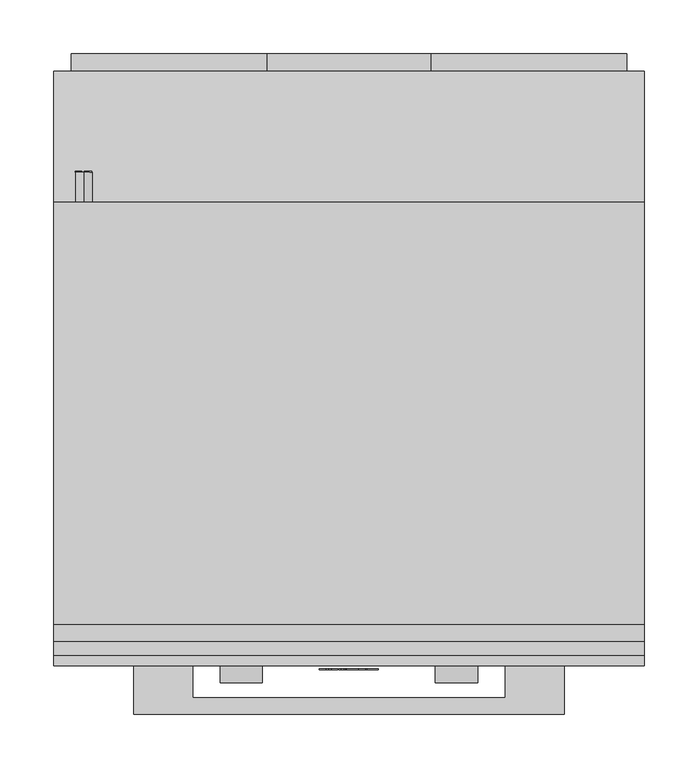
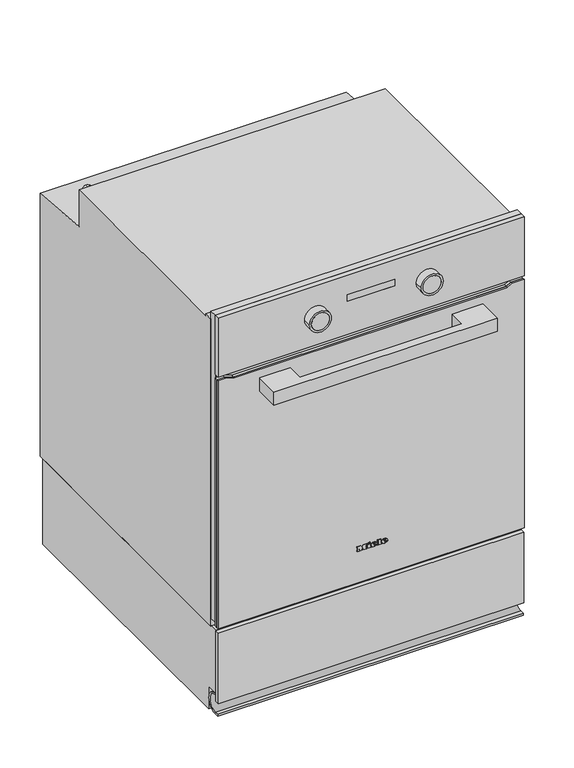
"""IFC4 building model written with IfcOpenShell, lengths in millimetres: proxy geometry, 12146100_CH_H2861-55BP_BRWS : 22286119_CH_12146100_H2861-55BP_BRWS."""

import ifcopenshell
import ifcopenshell.guid

model = None  # the IFC model being written
_history = None  # IfcOwnerHistory: only IFC2X3 demands one
_inside = {}  # id of a spatial element -> (the spatial element, [elements in it])
_under = {}  # id of a project, library or spatial element -> (it, [spatial elements below it])
_declared = {}  # id of a project -> (the project, [libraries it declares])
_typed = {}  # id of a type object -> (the type object, [elements of that type])
_made_of = {}  # id of a material, layer set ... -> (it, [elements and type objects made of it])


def new_model(schema):
    """Start an empty IFC model of exactly this schema.

    Asked for "IFC4X3", IfcOpenShell would pick the latest addendum, in which some entities
    have other attributes; the version numbers below select the first issue.
    IFC2X3 requires an IfcOwnerHistory on every rooted entity: one is made here for all.
    """
    global model, _history
    if schema == "IFC4X3":
        model = ifcopenshell.file(schema_version=(4, 3, 0, 0))
    else:
        model = ifcopenshell.file(schema=schema)
    _inside.clear()
    _under.clear()
    _declared.clear()
    _typed.clear()
    _made_of.clear()
    _history = None
    if model.schema == "IFC2X3":
        org = make("IfcOrganization", Name="unknown")
        user = make(
            "IfcPersonAndOrganization",
            ThePerson=make("IfcPerson", FamilyName="unknown"),
            TheOrganization=org,
        )
        app = make(
            "IfcApplication",
            ApplicationDeveloper=org,
            Version="unknown",
            ApplicationFullName="unknown",
            ApplicationIdentifier="unknown",
        )
        _history = make(
            "IfcOwnerHistory",
            OwningUser=user,
            OwningApplication=app,
            ChangeAction="ADDED",
            CreationDate=0,
        )
    return model


def make(cls, **values):
    """One entity of the class cls with the attributes given. An attribute that is None is left unset."""
    return model.create_entity(
        cls, **{name: value for name, value in values.items() if value is not None}
    )


def rooted(cls, **values):
    """An entity with a GlobalId (a new one), such as an element, a storey or a relation."""
    return make(cls, GlobalId=ifcopenshell.guid.new(), OwnerHistory=_history, **values)


def si_unit(unit_type, name, prefix=None):
    """IfcSIUnit, for example si_unit("LENGTHUNIT", "METRE", prefix="MILLI")."""
    return make("IfcSIUnit", UnitType=unit_type, Prefix=prefix, Name=name)


def assignment(units):
    """IfcUnitAssignment: the units of a project."""
    return None if units is None else make("IfcUnitAssignment", Units=units)


def point(xyz):
    """IfcCartesianPoint."""
    return None if xyz is None else make("IfcCartesianPoint", Coordinates=xyz)


def direction(xyz):
    """IfcDirection."""
    return None if xyz is None else make("IfcDirection", DirectionRatios=xyz)


def frame(location, z_axis=None, x_axis=None):
    """IfcAxis2Placement3D, a coordinate frame: its origin and axes. An axis left out is left unset."""
    return make(
        "IfcAxis2Placement3D",
        Location=point(location),
        Axis=direction(z_axis),
        RefDirection=direction(x_axis),
    )


def frame_2d(location, x_axis=None):
    """IfcAxis2Placement2D, a coordinate frame in the plane: its origin and x axis."""
    return make(
        "IfcAxis2Placement2D", Location=point(location), RefDirection=direction(x_axis)
    )


def origin():
    """The frame at (0, 0, 0) with its axes left unset."""
    return frame((0.0, 0.0, 0.0))


def place(relative_to, where):
    """IfcLocalPlacement: puts the frame where relative to a parent placement (None: the world)."""
    return make(
        "IfcLocalPlacement", PlacementRelTo=relative_to, RelativePlacement=where
    )


def context(
    kind, dimensions, precision=None, world=None, true_north=None, identifier=None
):
    """IfcGeometricRepresentationContext, for example the 3D "Model" context."""
    return make(
        "IfcGeometricRepresentationContext",
        ContextIdentifier=identifier,
        ContextType=kind,
        CoordinateSpaceDimension=dimensions,
        Precision=precision,
        WorldCoordinateSystem=world,
        TrueNorth=true_north,
    )


def project(units=None, contexts=None):
    """IfcProject with its units and contexts."""
    return rooted(
        "IfcProject",
        Name="project",
        RepresentationContexts=contexts,
        UnitsInContext=assignment(units),
    )


def spatial(cls, under=None, at=None, **own):
    """A site, building, storey or space (cls), placed at a placement, below another one or the project."""
    s = rooted(cls, ObjectPlacement=at, **own)
    if under is not None:
        _under.setdefault(under.id(), (under, []))[1].append(s)
    return s


def polyline(points):
    """IfcPolyline through the points."""
    return make("IfcPolyline", Points=[point(p) for p in points])


def circle_curve(where, radius):
    """IfcCircle in the frame where."""
    return make("IfcCircle", Position=where, Radius=radius)


def ellipse_curve(where, semi_axis1, semi_axis2):
    """IfcEllipse in the frame where."""
    return make(
        "IfcEllipse", Position=where, SemiAxis1=semi_axis1, SemiAxis2=semi_axis2
    )


def trimmed(basis, trim1, trim2, sense, master):
    """IfcTrimmedCurve: the piece of a basis curve between two trims."""
    return make(
        "IfcTrimmedCurve",
        BasisCurve=basis,
        Trim1=trim1,
        Trim2=trim2,
        SenseAgreement=sense,
        MasterRepresentation=master,
    )


def segment(curve, same_sense, transition):
    """IfcCompositeCurveSegment."""
    return make(
        "IfcCompositeCurveSegment",
        Transition=transition,
        SameSense=same_sense,
        ParentCurve=curve,
    )


def composite_curve(segments, self_intersect=None):
    """IfcCompositeCurve: segments joined end to end."""
    return make("IfcCompositeCurve", Segments=segments, SelfIntersect=self_intersect)


def outline(outer, holes=None, kind="AREA"):
    """IfcArbitraryClosedProfileDef: a profile drawn as a closed curve; with holes, ...WithVoids."""
    if holes is None:
        return make("IfcArbitraryClosedProfileDef", ProfileType=kind, OuterCurve=outer)
    return make(
        "IfcArbitraryProfileDefWithVoids",
        ProfileType=kind,
        OuterCurve=outer,
        InnerCurves=holes,
    )


def extrude(swept, where, along, depth):
    """IfcExtrudedAreaSolid: the profile swept, set in the frame where, extruded along a direction by depth."""
    return make(
        "IfcExtrudedAreaSolid",
        SweptArea=swept,
        Position=where,
        ExtrudedDirection=direction(along),
        Depth=depth,
    )


def faces_of(points, faces, orient=None, outer=None):
    """IfcFace entities. A face is a list of loops; a loop is a list of indices into points, from 0.

    orient and outer hold one flag for each loop. By default every Orientation is true, the
    first loop of a face is its IfcFaceOuterBound and the others are IfcFaceBound.
    """
    made = []
    for i, loops in enumerate(faces):
        bounds = []
        for j, loop in enumerate(loops):
            is_outer = j == 0 if outer is None else outer[i][j]
            bounds.append(
                make(
                    "IfcFaceOuterBound" if is_outer else "IfcFaceBound",
                    Bound=make("IfcPolyLoop", Polygon=[points[k] for k in loop]),
                    Orientation=True if orient is None else orient[i][j],
                )
            )
        made.append(make("IfcFace", Bounds=bounds))
    return made


def faceted_brep(points, faces, orient=None, outer=None, voids=None):
    """IfcFacetedBrep: a solid bounded by flat faces; with voids (closed shells), ...WithVoids."""
    shared = [point(p) for p in points]
    hull = make("IfcClosedShell", CfsFaces=faces_of(shared, faces, orient, outer))
    if voids is None:
        return make("IfcFacetedBrep", Outer=hull)
    return make(
        "IfcFacetedBrepWithVoids",
        Outer=hull,
        Voids=[
            make(cls, CfsFaces=faces_of(shared, fs, o, b)) for cls, fs, o, b in voids
        ],
    )


def shape(context_of_items, identifier, shape_type, items):
    """IfcShapeRepresentation: the items that make up one representation, for example the "Body"."""
    return make(
        "IfcShapeRepresentation",
        ContextOfItems=context_of_items,
        RepresentationIdentifier=identifier,
        RepresentationType=shape_type,
        Items=items,
    )


def source(mapping_origin, context_of_items, identifier, shape_type, items):
    """IfcRepresentationMap: a shape defined once, which mapped items show again and again."""
    return make(
        "IfcRepresentationMap",
        MappingOrigin=mapping_origin,
        MappedRepresentation=shape(context_of_items, identifier, shape_type, items),
    )


def transform(
    local_origin,
    x_axis=None,
    y_axis=None,
    z_axis=None,
    scale=None,
    scale2=None,
    scale3=None,
    uniform=True,
):
    """IfcCartesianTransformationOperator3D, or its non-uniform kind. x_axis, y_axis, z_axis: its Axis1, 2, 3."""
    if uniform:
        return make(
            "IfcCartesianTransformationOperator3D",
            Axis1=direction(x_axis),
            Axis2=direction(y_axis),
            LocalOrigin=point(local_origin),
            Scale=scale,
            Axis3=direction(z_axis),
        )
    return make(
        "IfcCartesianTransformationOperator3DnonUniform",
        Axis1=direction(x_axis),
        Axis2=direction(y_axis),
        LocalOrigin=point(local_origin),
        Scale=scale,
        Axis3=direction(z_axis),
        Scale2=scale2,
        Scale3=scale3,
    )


def mapped(mapping_source, mapping_target):
    """IfcMappedItem: shows the shape of a source again, moved by a transform."""
    return make(
        "IfcMappedItem", MappingSource=mapping_source, MappingTarget=mapping_target
    )


def made_of(thing, what):
    """Note that an element or type object is made of a material, layer set ...; save() writes the relation."""
    if what is not None:
        _made_of.setdefault(what.id(), (what, []))[1].append(thing)
    return thing


def element(
    cls,
    number,
    at=None,
    inside=None,
    cuts=None,
    type_object=None,
    material=None,
    context=None,
    identifier="Body",
    shape_type=None,
    held_by="IfcProductDefinitionShape",
    body=None,
    shapes=None,
    **own,
):
    """One element of the class cls, such as IfcWall. Its Tag is "e" and its number.

    at: its placement. inside: the storey or other place that contains it. cuts: it is an
    opening in that element (IfcRelVoidsElement). A single representation is given by context,
    identifier, shape_type and body (its items); several are given by shapes. held_by: the class
    of the entity that holds the representations. save() writes the other relations.
    """
    e = rooted(cls, Tag="e%d" % number, ObjectPlacement=at, **own)
    if body is not None:
        shapes = [shape(context, identifier, shape_type, body)]
    if shapes is not None:
        e.Representation = make(held_by, Representations=shapes)
    if inside is not None:
        _inside.setdefault(inside.id(), (inside, []))[1].append(e)
    if cuts is not None:
        rooted(
            "IfcRelVoidsElement", RelatingBuildingElement=cuts, RelatedOpeningElement=e
        )
    if type_object is not None:
        _typed.setdefault(type_object.id(), (type_object, []))[1].append(e)
    return made_of(e, material)


def aggregate(whole, parts):
    """IfcRelAggregates: a whole, such as a stair, and the parts it consists of."""
    return rooted("IfcRelAggregates", RelatingObject=whole, RelatedObjects=parts)


def save(model, path):
    """Write the relations noted so far, then the file.

    IfcRelAggregates (storeys below a building ...), IfcRelContainedInSpatialStructure (elements
    in a storey), IfcRelDefinesByType, IfcRelAssociatesMaterial and IfcRelDeclares: one each for
    every whole, place, type object, material and project.
    """
    for whole, parts in _under.values():
        aggregate(whole, parts)
    for where, things in _inside.values():
        rooted(
            "IfcRelContainedInSpatialStructure",
            RelatedElements=things,
            RelatingStructure=where,
        )
    for kind, things in _typed.values():
        rooted("IfcRelDefinesByType", RelatedObjects=things, RelatingType=kind)
    for what, things in _made_of.values():
        rooted("IfcRelAssociatesMaterial", RelatedObjects=things, RelatingMaterial=what)
    for by, libraries in _declared.values():
        rooted("IfcRelDeclares", RelatingContext=by, RelatedDefinitions=libraries)
    model.write(path)


def plane_surface(at):
    """IfcPlane: the flat surface through the origin of the frame at, square to its z axis."""
    return make("IfcPlane", Position=at)


def cylinder_surface(at, radius):
    """IfcCylindricalSurface: all points at the distance radius from the z axis of the frame at."""
    return make("IfcCylindricalSurface", Position=at, Radius=radius)


def revolved_surface(curve, axis_point, axis_direction):
    """IfcSurfaceOfRevolution: the curve turned about the line through axis_point along axis_direction."""
    return make(
        "IfcSurfaceOfRevolution",
        SweptCurve=make("IfcArbitraryOpenProfileDef", ProfileType="CURVE", Curve=curve),
        AxisPosition=make("IfcAxis1Placement", Location=point(axis_point), Axis=direction(axis_direction)),
    )


def extruded_surface(curve, direction_of_extrusion, depth):
    """IfcSurfaceOfLinearExtrusion: the curve pushed along a direction by depth."""
    return make(
        "IfcSurfaceOfLinearExtrusion",
        SweptCurve=make("IfcArbitraryOpenProfileDef", ProfileType="CURVE", Curve=curve),
        ExtrudedDirection=direction(direction_of_extrusion),
        Depth=depth,
    )


def advanced_brep(points, edges, surfaces, faces):
    """IfcAdvancedBrep: a solid bounded by faces that lie on surfaces and meet in shared edges.

    An edge is (start, end): straight between two places in points (the first is 0);
    or (start, end, curve); or (start, end, curve, False) where it runs against its curve.
    A face is (place in surfaces, loops), or (place, loops, False) where it looks against
    its surface's normal. A loop lists edges by number (the first is 1), with a minus sign
    where the edge is run from its end to its start. The first loop is the outer one.
    """
    corners = [point(p) for p in points]
    vertices = [make("IfcVertexPoint", VertexGeometry=c) for c in corners]
    made = []
    for start, end, *more in edges:
        made.append(
            make(
                "IfcEdgeCurve",
                EdgeStart=vertices[start],
                EdgeEnd=vertices[end],
                EdgeGeometry=more[0] if more else make("IfcPolyline", Points=[corners[start], corners[end]]),
                SameSense=more[1] if len(more) > 1 else True,
            )
        )
    hull = []
    for where, loops, *sense in faces:
        bounds = []
        for j, loop in enumerate(loops):
            ring = [make("IfcOrientedEdge", EdgeElement=made[abs(k) - 1], Orientation=k > 0) for k in loop]
            bounds.append(
                make(
                    "IfcFaceOuterBound" if j == 0 else "IfcFaceBound",
                    Bound=make("IfcEdgeLoop", EdgeList=ring),
                    Orientation=True,
                )
            )
        hull.append(make("IfcAdvancedFace", Bounds=bounds, FaceSurface=surfaces[where], SameSense=sense[0] if sense else True))
    return make("IfcAdvancedBrep", Outer=make("IfcClosedShell", CfsFaces=hull))


def specialty_equipment_a02c2a55(model_context):
    return source(origin(), model_context, "Body", "SolidModel", [
        extrude(outline(polyline([(-273.5, -14.0), (273.5, -14.0), (273.5, -22.0), (-273.5, -22.0), (-273.5, -14.0)])), frame((0.0, 0.0, 28.0), z_axis=(0.0, 0.0, 1.0), x_axis=(1.0, 0.0, 0.0)), (0.0, 0.0, 1.0), 133.5),
        extrude(outline(composite_curve([segment(polyline([(-20.0, 3.3413786), (-20.0, 6.5166751), (-12.6417749, 6.5166751)]), True, "CONTINUOUS"), segment(trimmed(circle_curve(frame_2d((-12.6417749, 23.0333249)), 16.5166498), [point((-12.6417749, 6.5166751))], [point((-11.3579007, 39.5))], True, "CARTESIAN"), True, "CONTINUOUS"), segment(polyline([(-11.3579007, 39.5), (-14.0, 39.5), (-14.0, 42.0), (-12.0, 42.0)]), True, "CONTINUOUS"), segment(trimmed(circle_curve(frame_2d((-12.0, 23.0)), 19.0), [point((-12.0, 42.0))], [point((7.0, 23.0))], False, "CARTESIAN"), True, "CONTINUOUS"), segment(trimmed(circle_curve(frame_2d((-14.9470942, 23.0)), 21.9470942), [point((7.0, 23.0))], [point((3.3965309, 10.9506696))], False, "CARTESIAN"), True, "CONTINUOUS"), segment(trimmed(circle_curve(frame_2d((-12.0, 22.7225846)), 19.381206), [point((3.3965309, 10.9506696))], [point((-12.0, 3.3413786))], False, "CARTESIAN"), True, "CONTINUOUS"), segment(polyline([(-12.0, 3.3413786), (-20.0, 3.3413786)]), True, "CONTINUOUS")], self_intersect=False)), frame((-273.5, 0.0, 0.0), z_axis=(1.0, 0.0, 0.0), x_axis=(0.0, 1.0, 0.0)), (0.0, 0.0, 1.0), 547.0),
        extrude(outline(polyline([(-14.0, 162.0), (522.0, 162.0), (522.0, 0.0), (8.0, 0.0), (8.0, 43.1784801), (-14.0, 43.1784801), (-14.0, 162.0)])), frame((-273.5, 0.0, 0.0), z_axis=(1.0, 0.0, 0.0), x_axis=(0.0, 1.0, 0.0)), (0.0, 0.0, 1.0), 547.0),
        advanced_brep(
        [(21.28, -26.0, 234.133), (21.28, -26.0, 235.042), (27.301, -26.0, 235.042), (16.825, -26.0, 235.042), (19.3, -26.0, 232.0), (27.148, -26.0, 234.133), (24.43, -26.0, 234.133), (22.288, -26.0, 233.125), (21.28, -26.0, 236.194), (21.28, -26.0, 237.175), (22.819, -26.0, 237.175), (22.819, -26.0, 236.194), (21.28, -25.0, 234.133), (22.288, -25.0, 233.125), (24.43, -25.0, 234.133), (27.148, -25.0, 234.133), (19.3, -25.0, 232.0), (16.825, -25.0, 235.042), (27.301, -25.0, 235.042), (21.28, -25.0, 235.042), (21.28, -25.0, 236.194), (22.819, -25.0, 236.194), (22.819, -25.0, 237.175), (21.28, -25.0, 237.175)],
        [
            (0, 1),
            (1, 2),
            (2, 3, ellipse_curve(frame((22.063, -26.0, 235.042), z_axis=(0.0, -1.0, 0.0), x_axis=(-1.0, 0.0, 0.0)), 5.238, 4.329)),
            (3, 4, circle_curve(frame((20.3080491, -26.0, 235.348), z_axis=(0.0, -1.0, 0.0), x_axis=(0.0, 0.0, -1.0)), 3.4964649)),
            (4, 5, circle_curve(frame((21.9581428, -26.0, 237.724), z_axis=(0.0, -1.0, 0.0), x_axis=(0.0, 0.0, -1.0)), 6.3110933)),
            (5, 6),
            (6, 7, circle_curve(frame((22.7279412, -26.0, 234.97), z_axis=(0.0, 1.0, 0.0), x_axis=(0.0, 0.0, -1.0)), 1.896727)),
            (7, 0, circle_curve(frame((22.288, -26.0, 234.133), z_axis=(0.0, 1.0, 0.0), x_axis=(0.0, 0.0, -1.0)), 1.008)),
            (8, 9),
            (9, 10, circle_curve(frame((22.0495, -26.0, 237.175), z_axis=(0.0, 1.0, 0.0), x_axis=(0.0, 0.0, -1.0)), 0.7695)),
            (10, 11),
            (11, 8),
            (12, 13, circle_curve(frame((22.288, -25.0, 234.133), z_axis=(0.0, -1.0, 0.0), x_axis=(0.0, 0.0, -1.0)), 1.008)),
            (13, 14, circle_curve(frame((22.7279412, -25.0, 234.97), z_axis=(0.0, -1.0, 0.0), x_axis=(0.0, 0.0, -1.0)), 1.896727)),
            (14, 15),
            (15, 16, circle_curve(frame((21.9581428, -25.0, 237.724), z_axis=(0.0, 1.0, 0.0), x_axis=(0.0, 0.0, -1.0)), 6.3110933)),
            (16, 17, circle_curve(frame((20.3080491, -25.0, 235.348), z_axis=(0.0, 1.0, 0.0), x_axis=(0.0, 0.0, -1.0)), 3.4964649)),
            (17, 18, ellipse_curve(frame((22.063, -25.0, 235.042), z_axis=(0.0, 1.0, 0.0), x_axis=(-1.0, 0.0, 0.0)), 5.238, 4.329)),
            (18, 19),
            (19, 12),
            (20, 21),
            (21, 22),
            (22, 23, circle_curve(frame((22.0495, -25.0, 237.175), z_axis=(0.0, -1.0, 0.0), x_axis=(0.0, 0.0, -1.0)), 0.7695)),
            (23, 20),
            (0, 12),
            (19, 1),
            (18, 2),
            (5, 15),
            (14, 6),
            (17, 3),
            (13, 7),
            (16, 4),
            (8, 20),
            (23, 9),
            (22, 10),
            (21, 11),
        ],
        [
            plane_surface(frame((21.28, -26.0, 235.042), z_axis=(0.0, -1.0, 0.0), x_axis=(0.0, 0.0, 1.0))),
            plane_surface(frame((21.28, -25.0, 235.042), z_axis=(0.0, 1.0, 0.0), x_axis=(0.0, 0.0, -1.0))),
            plane_surface(frame((21.28, -26.0, 234.133), z_axis=(1.0, 0.0, 0.0), x_axis=(0.0, 1.0, 0.0))),
            plane_surface(frame((21.28, -26.0, 235.042), z_axis=(0.0, 0.0, -1.0), x_axis=(0.0, 1.0, 0.0))),
            plane_surface(frame((27.148, -26.0, 234.133), z_axis=(0.0, 0.0, 1.0), x_axis=(0.0, 1.0, 0.0))),
            extruded_surface(trimmed(ellipse_curve(frame((22.063, -24.0, 235.042), z_axis=(0.0, -1.0, 0.0), x_axis=(-1.0, 0.0, 0.0)), 5.238, 4.329), [point((27.301, -24.0, 235.042))], [point((16.825, -24.0, 235.042))], True, "CARTESIAN"), (0.0, -1.0, 0.0), 1.0),
            revolved_surface(polyline([(22.7279412, -25.0, 233.073273), (22.7279412, -26.0, 233.073273)]), (22.7279412, -25.0, 234.97), (0.0, 1.0, 0.0)),
            revolved_surface(polyline([(22.288, -25.0, 233.125), (22.288, -26.0, 233.125)]), (22.288, -25.0, 234.133), (0.0, 1.0, 0.0)),
            cylinder_surface(frame((20.3080491, -25.0, 235.348), z_axis=(0.0, -1.0, 0.0), x_axis=(0.0, 0.0, -1.0)), 3.4964649),
            cylinder_surface(frame((21.9581428, -25.0, 237.724), z_axis=(0.0, -1.0, 0.0), x_axis=(0.0, 0.0, -1.0)), 6.3110933),
            plane_surface(frame((21.28, -26.0, 236.194), z_axis=(1.0, 0.0, 0.0), x_axis=(0.0, 1.0, 0.0))),
            revolved_surface(polyline([(22.0495, -25.0, 236.40550000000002), (22.0495, -26.0, 236.40550000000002)]), (22.0495, -25.0, 237.175), (0.0, 1.0, 0.0)),
            plane_surface(frame((22.819, -26.0, 237.175), z_axis=(-1.0, 0.0, 0.0), x_axis=(0.0, 1.0, 0.0))),
            plane_surface(frame((22.819, -26.0, 236.194), z_axis=(0.0, 0.0, 1.0), x_axis=(0.0, 1.0, 0.0))),
        ],
        [
            (0, [[1, 2, 3, 4, 5, 6, 7, 8], [9, 10, 11, 12]]),
            (1, [[13, 14, 15, 16, 17, 18, 19, 20], [21, 22, 23, 24]]),
            (2, [[-1, 25, -20, 26]]),
            (3, [[-2, -26, -19, 27]]),
            (4, [[-6, 28, -15, 29]]),
            (5, [[-3, -27, -18, 30]]),
            (6, [[-7, -29, -14, 31]]),
            (7, [[-8, -31, -13, -25]]),
            (8, [[-4, -30, -17, 32]]),
            (9, [[-5, -32, -16, -28]]),
            (10, [[-9, 33, -24, 34]]),
            (11, [[-10, -34, -23, 35]]),
            (12, [[-11, -35, -22, 36]]),
            (13, [[-12, -36, -21, -33]]),
        ],
    ),
        advanced_brep(
        [(2.497, -26.0, 234.133), (2.497, -26.0, 235.042), (8.518, -26.0, 235.042), (-1.958, -26.0, 235.042), (0.517, -26.0, 232.0), (8.365, -26.0, 234.133), (5.647, -26.0, 234.133), (3.505, -26.0, 233.125), (2.497, -26.0, 236.194), (2.497, -26.0, 237.175), (4.036, -26.0, 237.175), (4.036, -26.0, 236.194), (2.497, -25.0, 234.133), (3.505, -25.0, 233.125), (5.647, -25.0, 234.133), (8.365, -25.0, 234.133), (0.517, -25.0, 232.0), (-1.958, -25.0, 235.042), (8.518, -25.0, 235.042), (2.497, -25.0, 235.042), (2.497, -25.0, 236.194), (4.036, -25.0, 236.194), (4.036, -25.0, 237.175), (2.497, -25.0, 237.175)],
        [
            (0, 1),
            (1, 2),
            (2, 3, ellipse_curve(frame((3.28, -26.0, 235.042), z_axis=(0.0, -1.0, 0.0), x_axis=(-1.0, 0.0, 0.0)), 5.238, 4.329)),
            (3, 4, circle_curve(frame((1.5250491, -26.0, 235.348), z_axis=(0.0, -1.0, 0.0), x_axis=(0.0, 0.0, -1.0)), 3.4964649)),
            (4, 5, circle_curve(frame((3.1751428, -26.0, 237.724), z_axis=(0.0, -1.0, 0.0), x_axis=(0.0, 0.0, -1.0)), 6.3110933)),
            (5, 6),
            (6, 7, circle_curve(frame((3.9449412, -26.0, 234.97), z_axis=(0.0, 1.0, 0.0), x_axis=(0.0, 0.0, -1.0)), 1.896727)),
            (7, 0, circle_curve(frame((3.505, -26.0, 234.133), z_axis=(0.0, 1.0, 0.0), x_axis=(0.0, 0.0, -1.0)), 1.008)),
            (8, 9),
            (9, 10, circle_curve(frame((3.2665, -26.0, 237.175), z_axis=(0.0, 1.0, 0.0), x_axis=(0.0, 0.0, -1.0)), 0.7695)),
            (10, 11),
            (11, 8),
            (12, 13, circle_curve(frame((3.505, -25.0, 234.133), z_axis=(0.0, -1.0, 0.0), x_axis=(0.0, 0.0, -1.0)), 1.008)),
            (13, 14, circle_curve(frame((3.9449412, -25.0, 234.97), z_axis=(0.0, -1.0, 0.0), x_axis=(0.0, 0.0, -1.0)), 1.896727)),
            (14, 15),
            (15, 16, circle_curve(frame((3.1751428, -25.0, 237.724), z_axis=(0.0, 1.0, 0.0), x_axis=(0.0, 0.0, -1.0)), 6.3110933)),
            (16, 17, circle_curve(frame((1.5250491, -25.0, 235.348), z_axis=(0.0, 1.0, 0.0), x_axis=(0.0, 0.0, -1.0)), 3.4964649)),
            (17, 18, ellipse_curve(frame((3.28, -25.0, 235.042), z_axis=(0.0, 1.0, 0.0), x_axis=(-1.0, 0.0, 0.0)), 5.238, 4.329)),
            (18, 19),
            (19, 12),
            (20, 21),
            (21, 22),
            (22, 23, circle_curve(frame((3.2665, -25.0, 237.175), z_axis=(0.0, -1.0, 0.0), x_axis=(0.0, 0.0, -1.0)), 0.7695)),
            (23, 20),
            (0, 12),
            (19, 1),
            (18, 2),
            (5, 15),
            (14, 6),
            (17, 3),
            (13, 7),
            (16, 4),
            (8, 20),
            (23, 9),
            (22, 10),
            (21, 11),
        ],
        [
            plane_surface(frame((2.497, -26.0, 235.042), z_axis=(0.0, -1.0, 0.0), x_axis=(0.0, 0.0, 1.0))),
            plane_surface(frame((2.497, -25.0, 235.042), z_axis=(0.0, 1.0, 0.0), x_axis=(0.0, 0.0, -1.0))),
            plane_surface(frame((2.497, -26.0, 234.133), z_axis=(1.0, 0.0, 0.0), x_axis=(0.0, 1.0, 0.0))),
            plane_surface(frame((2.497, -26.0, 235.042), z_axis=(0.0, 0.0, -1.0), x_axis=(0.0, 1.0, 0.0))),
            plane_surface(frame((8.365, -26.0, 234.133), z_axis=(0.0, 0.0, 1.0), x_axis=(0.0, 1.0, 0.0))),
            extruded_surface(trimmed(ellipse_curve(frame((3.28, -24.0, 235.042), z_axis=(0.0, -1.0, 0.0), x_axis=(-1.0, 0.0, 0.0)), 5.238, 4.329), [point((8.518, -24.0, 235.042))], [point((-1.958, -24.0, 235.042))], True, "CARTESIAN"), (0.0, -1.0, 0.0), 1.0),
            revolved_surface(polyline([(3.9449412, -25.0, 233.073273), (3.9449412, -26.0, 233.073273)]), (3.9449412, -25.0, 234.97), (0.0, 1.0, 0.0)),
            revolved_surface(polyline([(3.505, -25.0, 233.125), (3.505, -26.0, 233.125)]), (3.505, -25.0, 234.133), (0.0, 1.0, 0.0)),
            cylinder_surface(frame((1.5250491, -25.0, 235.348), z_axis=(0.0, -1.0, 0.0), x_axis=(0.0, 0.0, -1.0)), 3.4964649),
            cylinder_surface(frame((3.1751428, -25.0, 237.724), z_axis=(0.0, -1.0, 0.0), x_axis=(0.0, 0.0, -1.0)), 6.3110933),
            plane_surface(frame((2.497, -26.0, 236.194), z_axis=(1.0, 0.0, 0.0), x_axis=(0.0, 1.0, 0.0))),
            revolved_surface(polyline([(3.2665, -25.0, 236.40550000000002), (3.2665, -26.0, 236.40550000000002)]), (3.2665, -25.0, 237.175), (0.0, 1.0, 0.0)),
            plane_surface(frame((4.036, -26.0, 237.175), z_axis=(-1.0, 0.0, 0.0), x_axis=(0.0, 1.0, 0.0))),
            plane_surface(frame((4.036, -26.0, 236.194), z_axis=(0.0, 0.0, 1.0), x_axis=(0.0, 1.0, 0.0))),
        ],
        [
            (0, [[1, 2, 3, 4, 5, 6, 7, 8], [9, 10, 11, 12]]),
            (1, [[13, 14, 15, 16, 17, 18, 19, 20], [21, 22, 23, 24]]),
            (2, [[-1, 25, -20, 26]]),
            (3, [[-2, -26, -19, 27]]),
            (4, [[-6, 28, -15, 29]]),
            (5, [[-3, -27, -18, 30]]),
            (6, [[-7, -29, -14, 31]]),
            (7, [[-8, -31, -13, -25]]),
            (8, [[-4, -30, -17, 32]]),
            (9, [[-5, -32, -16, -28]]),
            (10, [[-9, 33, -24, 34]]),
            (11, [[-10, -34, -23, 35]]),
            (12, [[-11, -35, -22, 36]]),
            (13, [[-12, -36, -21, -33]]),
        ],
    ),
        extrude(outline(polyline([(240.469, -7.34), (239.011, -6.656), (240.433, -3.605), (241.891, -4.28), (240.469, -7.34)])), frame((0.0, -26.0, 0.0), z_axis=(0.0, 1.0, 0.0), x_axis=(0.0, 0.0, 1.0)), (0.0, 0.0, 1.0), 1.0),
        extrude(outline(polyline([(238.813, -9.563), (237.202, -9.563), (237.202, -8.492), (233.512, -8.492), (233.512, -9.563), (232.0, -9.563), (232.0, -2.462), (233.512, -2.462), (233.512, -3.506), (238.813, -3.506), (238.813, -9.563)])), frame((0.0, -26.0, 0.0), z_axis=(0.0, 1.0, 0.0), x_axis=(0.0, 0.0, 1.0)), (0.0, 0.0, 1.0), 1.0),
        extrude(outline(polyline([(239.533, 9.022), (239.533, 10.102), (233.512, 10.102), (233.512, 9.022), (232.0, 9.022), (232.0, 16.321), (233.512, 16.321), (233.512, 15.214), (241.0, 15.214), (241.0, 9.022), (239.533, 9.022)])), frame((0.0, -26.0, 0.0), z_axis=(0.0, 1.0, 0.0), x_axis=(0.0, 0.0, 1.0)), (0.0, 0.0, 1.0), 1.0),
        extrude(outline(polyline([(239.533, -27.5), (239.533, -26.411), (233.512, -26.411), (233.512, -27.5), (232.0, -27.5), (232.0, -23.54), (233.512, -23.54), (233.512, -24.62), (237.3341247, -24.62), (232.0, -20.597), (237.4402223, -16.556), (233.512, -16.556), (233.512, -17.663), (232.0, -17.663), (232.0, -10.481), (233.512, -10.481), (233.512, -11.624), (239.533, -11.624), (239.533, -10.481), (241.0, -10.481), (241.0, -15.962), (237.625, -18.59), (241.0, -21.227), (241.0, -27.5), (239.533, -27.5)])), frame((0.0, -26.0, 0.0), z_axis=(0.0, 1.0, 0.0), x_axis=(0.0, 0.0, 1.0)), (0.0, 0.0, 1.0), 1.0),
        extrude(outline(polyline([(-200.0, -67.0), (-200.0, -22.0), (-145.0, -22.0), (-145.0, -52.0), (145.0, -52.0), (145.0, -22.0), (200.0, -22.0), (200.0, -67.0), (-200.0, -67.0)])), frame((0.0, 0.0, 595.0), z_axis=(0.0, 0.0, 1.0), x_axis=(1.0, 0.0, 0.0)), (0.0, 0.0, 1.0), 24.0),
        extrude(outline(polyline([(639.5, -274.0), (170.0, -274.0), (170.0, 274.0), (639.5, 274.0), (639.5, 252.5209298), (634.5, 244.0), (634.5, -244.0), (639.5, -260.3542631), (639.5, -274.0)])), frame((0.0, -18.0, 0.0), z_axis=(0.0, 1.0, 0.0), x_axis=(0.0, 0.0, 1.0)), (0.0, 0.0, 1.0), 5.0),
        extrude(outline(polyline([(639.5, -274.0), (170.0, -274.0), (170.0, 274.0), (639.5, 274.0), (639.5, 252.5209298), (634.5, 244.0), (634.5, -244.0), (639.5, -260.3542631), (639.5, -274.0)])), frame((0.0, -22.0, 0.0), z_axis=(0.0, 1.0, 0.0), x_axis=(0.0, 0.0, 1.0)), (0.0, 0.0, 1.0), 4.0),
        extrude(outline(polyline([(42.5, -22.0), (-42.5, -22.0), (-42.5, -20.0), (42.5, -20.0), (42.5, -22.0)])), frame((0.0, 0.0, 709.0), z_axis=(0.0, 0.0, 1.0), x_axis=(1.0, 0.0, 0.0)), (0.0, 0.0, 1.0), 12.0),
        faceted_brep([(274.0, -22.0, 758.0), (-274.0, -22.0, 758.0), (-274.0, -22.0, 646.5), (274.0, -22.0, 646.5), (-42.5, -22.0, 721.0), (42.5, -22.0, 721.0), (42.5, -22.0, 709.0), (-42.5, -22.0, 709.0), (274.0, -13.0, 758.0), (274.0, -13.0, 646.5), (-274.0, -13.0, 646.5), (-274.0, -13.0, 758.0), (42.5, -20.0, 721.0), (-42.5, -20.0, 721.0), (-42.5, -20.0, 709.0), (42.5, -20.0, 709.0)], [[[0, 1, 2, 3], [4, 5, 6, 7]], [[8, 9, 10, 11]], [[1, 0, 8, 11]], [[2, 1, 11, 10]], [[3, 2, 10, 9]], [[0, 3, 9, 8]], [[12, 13, 14, 15]], [[13, 12, 5, 4]], [[14, 13, 4, 7]], [[15, 14, 7, 6]], [[12, 15, 6, 5]]]),
        extrude(outline(composite_curve([segment(trimmed(circle_curve(frame_2d((700.5, -100.0)), 16.0), [point((700.5, -116.0))], [point((700.5, -84.0))], False, "CARTESIAN"), True, "CONTINUOUS"), segment(trimmed(circle_curve(frame_2d((700.5, -100.0)), 16.0), [point((700.5, -84.0))], [point((700.5, -116.0))], False, "CARTESIAN"), True, "CONTINUOUS")], self_intersect=False)), frame((0.0, -38.0, 0.0), z_axis=(0.0, 1.0, 0.0), x_axis=(0.0, 0.0, 1.0)), (0.0, 0.0, 1.0), 16.0),
        extrude(outline(composite_curve([segment(trimmed(circle_curve(frame_2d((700.5, 100.0)), 16.0), [point((700.5, 84.0))], [point((700.5, 116.0))], False, "CARTESIAN"), True, "CONTINUOUS"), segment(trimmed(circle_curve(frame_2d((700.5, 100.0)), 16.0), [point((700.5, 116.0))], [point((700.5, 84.0))], False, "CARTESIAN"), True, "CONTINUOUS")], self_intersect=False)), frame((0.0, -38.0, 0.0), z_axis=(0.0, 1.0, 0.0), x_axis=(0.0, 0.0, 1.0)), (0.0, 0.0, 1.0), 16.0),
        extrude(outline(composite_curve([segment(trimmed(circle_curve(frame_2d((700.5, -100.0)), 19.7), [point((700.5, -119.7))], [point((700.5, -80.3))], False, "CARTESIAN"), True, "CONTINUOUS"), segment(trimmed(circle_curve(frame_2d((700.5, -100.0)), 19.7), [point((700.5, -80.3))], [point((700.5, -119.7))], False, "CARTESIAN"), True, "CONTINUOUS")], self_intersect=False), holes=[composite_curve([segment(trimmed(circle_curve(frame_2d((700.5, -100.0)), 16.0), [point((700.5, -116.0))], [point((700.5, -84.0))], True, "CARTESIAN"), True, "CONTINUOUS"), segment(trimmed(circle_curve(frame_2d((700.5, -100.0)), 16.0), [point((700.5, -84.0))], [point((700.5, -116.0))], True, "CARTESIAN"), True, "CONTINUOUS")], self_intersect=False)]), frame((0.0, -38.0, 0.0), z_axis=(0.0, 1.0, 0.0), x_axis=(0.0, 0.0, 1.0)), (0.0, 0.0, 1.0), 16.0),
        extrude(outline(composite_curve([segment(trimmed(circle_curve(frame_2d((700.5, 100.0)), 19.7), [point((700.5, 80.3))], [point((700.5, 119.7))], False, "CARTESIAN"), True, "CONTINUOUS"), segment(trimmed(circle_curve(frame_2d((700.5, 100.0)), 19.7), [point((700.5, 119.7))], [point((700.5, 80.3))], False, "CARTESIAN"), True, "CONTINUOUS")], self_intersect=False), holes=[composite_curve([segment(trimmed(circle_curve(frame_2d((700.5, 100.0)), 16.0), [point((700.5, 84.0))], [point((700.5, 116.0))], True, "CARTESIAN"), True, "CONTINUOUS"), segment(trimmed(circle_curve(frame_2d((700.5, 100.0)), 16.0), [point((700.5, 116.0))], [point((700.5, 84.0))], True, "CARTESIAN"), True, "CONTINUOUS")], self_intersect=False)]), frame((0.0, -38.0, 0.0), z_axis=(0.0, 1.0, 0.0), x_axis=(0.0, 0.0, 1.0)), (0.0, 0.0, 1.0), 16.0),
        faceted_brep([(274.0, 0.0, 162.0), (274.0, 530.0, 162.0), (274.0, 530.0, 659.4219562), (274.0, 408.0, 670.5494875), (274.0, 408.0, 740.0), (274.0, 16.0, 740.0), (274.0, 16.0, 743.0), (274.0, 0.0, 743.0), (-274.0, 0.0, 162.0), (-274.0, 0.0, 743.0), (-274.0, 16.0, 743.0), (-274.0, 16.0, 740.0), (-274.0, 408.0, 740.0), (-274.0, 408.0, 670.5494875), (-274.0, 530.0, 659.4219562), (-274.0, 530.0, 162.0), (-235.0, 0.0, 590.0), (235.0, 0.0, 590.0), (235.0, 0.0, 204.0), (-235.0, 0.0, 204.0), (235.0, 433.0, 590.0), (-235.0, 433.0, 590.0), (-235.0, 433.0, 204.0), (235.0, 433.0, 204.0)], [[[0, 1, 2, 3, 4, 5, 6, 7]], [[8, 9, 10, 11, 12, 13, 14, 15]], [[1, 0, 8, 15]], [[1, 15, 14, 2]], [[11, 5, 4, 12]], [[0, 7, 9, 8], [16, 17, 18, 19]], [[6, 5, 11, 10]], [[7, 6, 10, 9]], [[13, 3, 2, 14]], [[3, 13, 12, 4]], [[20, 21, 22, 23]], [[21, 20, 17, 16]], [[22, 21, 16, 19]], [[23, 22, 19, 18]], [[20, 23, 18, 17]]]),
        extrude(outline(polyline([(720.0464496, -245.8425503), (718.7915157, -245.8425503), (718.7915157, -239.8786472), (715.8088265, -239.8786472), (715.8088265, -245.5253567), (714.5510117, -245.5253567), (714.5510117, -239.8786472), (711.2605911, -239.8786472), (711.2605911, -245.9946301), (709.9978772, -245.9946301), (709.9978772, -238.6251477), (720.0464496, -238.6251477), (720.0464496, -245.8425503)])), frame((0.0, 436.0, 0.0), z_axis=(0.0, 1.0, 0.0), x_axis=(0.0, 0.0, 1.0)), (0.0, 0.0, 1.0), 1.0),
        extrude(outline(polyline([(720.0498619, -249.1372374), (711.2558696, -249.1372374), (711.2558696, -254.1557124), (710.0011788, -254.1557124), (710.0011788, -247.8766443), (720.0498619, -247.8766443), (720.0498619, -249.1372374)])), frame((0.0, 436.0, 0.0), z_axis=(0.0, 1.0, 0.0), x_axis=(0.0, 0.0, 1.0)), (0.0, 0.0, 1.0), 1.0),
        extrude(outline(composite_curve([segment(trimmed(circle_curve(frame_2d((715.0, -246.0)), 7.5), [point((707.5, -246.0))], [point((722.5, -246.0))], False, "CARTESIAN"), True, "CONTINUOUS"), segment(trimmed(circle_curve(frame_2d((715.0, -246.0)), 7.5), [point((722.5, -246.0))], [point((707.5, -246.0))], False, "CARTESIAN"), True, "CONTINUOUS")], self_intersect=False)), frame((0.0, 406.0, 0.0), z_axis=(0.0, 1.0, 0.0), x_axis=(0.0, 0.0, 1.0)), (0.0, 0.0, 1.0), 30.0),
        extrude(outline(polyline([(499.5, 76.0), (540.5, 76.0), (540.5, -76.0), (499.5, -76.0), (499.5, -258.0), (351.6961275, -258.0), (351.6961275, -76.0), (326.5, -76.0), (326.5, 76.0), (351.6961275, 76.0), (351.6961275, 258.0), (499.5, 258.0), (499.5, 76.0)])), frame((0.0, 530.0, 0.0), z_axis=(0.0, 1.0, 0.0), x_axis=(0.0, 0.0, 1.0)), (0.0, 0.0, 1.0), 16.0),
        extrude(outline(polyline([(177.0, 274.0), (758.0, 274.0), (758.0, -274.0), (177.0, -274.0), (177.0, -272.0), (646.0, -272.0), (646.0, 272.0), (177.0, 272.0), (177.0, 274.0)])), frame((0.0, -13.0, 0.0), z_axis=(0.0, 1.0, 0.0), x_axis=(0.0, 0.0, 1.0)), (0.0, 0.0, 1.0), 13.0),
    ])


if __name__ == "__main__":
    model = new_model("IFC4")
    model_context = context("Model", 3, world=origin())
    ifc_project = project(units=[si_unit("LENGTHUNIT", "METRE", prefix="MILLI")], contexts=[model_context])
    site = spatial("IfcSite", under=ifc_project)
    building = spatial("IfcBuilding", under=site)
    placement = place(None, origin())
    specialty_equipment_shape = specialty_equipment_a02c2a55(model_context)
    element("IfcBuildingElementProxy", 1, Name="12146100_CH_H2861-55BP_BRWS : 22286119_CH_12146100_H2861-55BP_BRWS", ObjectType="12146100_CH_H2861-55BP_BRWS : 22286119_CH_12146100_H2861-55BP_BRWS", at=placement, inside=building, context=model_context, shape_type="MappedRepresentation", body=[
        mapped(specialty_equipment_shape, transform((0.0, 0.0, 0.0), x_axis=(1.0, 0.0, 0.0), y_axis=(0.0, 1.0, 0.0), z_axis=(0.0, 0.0, 1.0))),
    ])
    save(model, "model.ifc")
